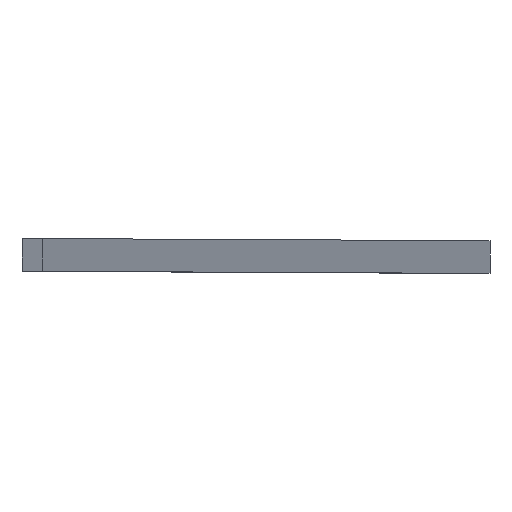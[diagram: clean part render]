
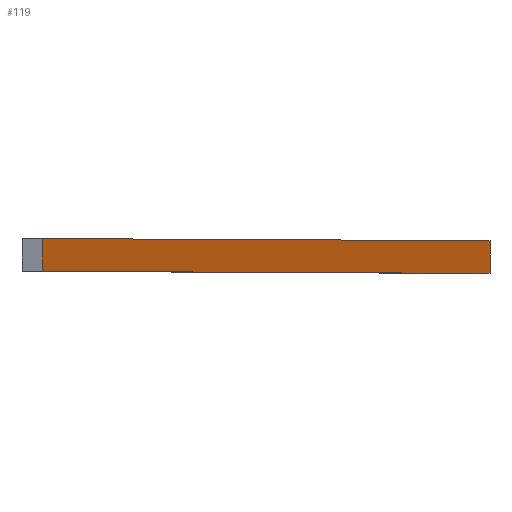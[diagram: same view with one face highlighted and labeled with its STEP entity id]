
A CAD part, top view. The second image highlights one B-rep face of the part: STEP entity #119.
In plain terms, the highlighted planar face has unit normal (0.94, 0, 0.342).
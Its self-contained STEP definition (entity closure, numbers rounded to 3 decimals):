
#21 = EDGE_CURVE('',#22,#24,#26,.T.);
#22 = VERTEX_POINT('',#23);
#23 = CARTESIAN_POINT('',(9.397,-15.,3.42));
#24 = VERTEX_POINT('',#25);
#25 = CARTESIAN_POINT('',(419.821,-15.,-1124.211));
#26 = LINE('',#27,#28);
#27 = CARTESIAN_POINT('',(9.397,-15.,3.42));
#28 = VECTOR('',#29,1.);
#29 = DIRECTION('',(0.342,0.,-0.94));
#94 = VERTEX_POINT('',#95);
#95 = CARTESIAN_POINT('',(419.821,15.,-1124.211));
#101 = EDGE_CURVE('',#102,#94,#104,.T.);
#102 = VERTEX_POINT('',#103);
#103 = CARTESIAN_POINT('',(9.397,15.,3.42));
#104 = LINE('',#105,#106);
#105 = CARTESIAN_POINT('',(9.397,15.,3.42));
#106 = VECTOR('',#107,1.);
#107 = DIRECTION('',(0.342,0.,-0.94));
#119 = ADVANCED_FACE('',(#120),#136,.F.);
#120 = FACE_BOUND('',#121,.F.);
#121 = EDGE_LOOP('',(#122,#123,#129,#130));
#122 = ORIENTED_EDGE('',*,*,#101,.T.);
#123 = ORIENTED_EDGE('',*,*,#124,.T.);
#124 = EDGE_CURVE('',#94,#24,#125,.T.);
#125 = LINE('',#126,#127);
#126 = CARTESIAN_POINT('',(419.821,15.,-1124.211));
#127 = VECTOR('',#128,1.);
#128 = DIRECTION('',(0.,-1.,-0.));
#129 = ORIENTED_EDGE('',*,*,#21,.F.);
#130 = ORIENTED_EDGE('',*,*,#131,.F.);
#131 = EDGE_CURVE('',#102,#22,#132,.T.);
#132 = LINE('',#133,#134);
#133 = CARTESIAN_POINT('',(9.397,15.,3.42));
#134 = VECTOR('',#135,1.);
#135 = DIRECTION('',(0.,-1.,-0.));
#136 = PLANE('',#137);
#137 = AXIS2_PLACEMENT_3D('',#138,#139,#140);
#138 = CARTESIAN_POINT('',(9.397,15.,3.42));
#139 = DIRECTION('',(-0.94,0.,-0.342));
#140 = DIRECTION('',(0.,-1.,-0.));
